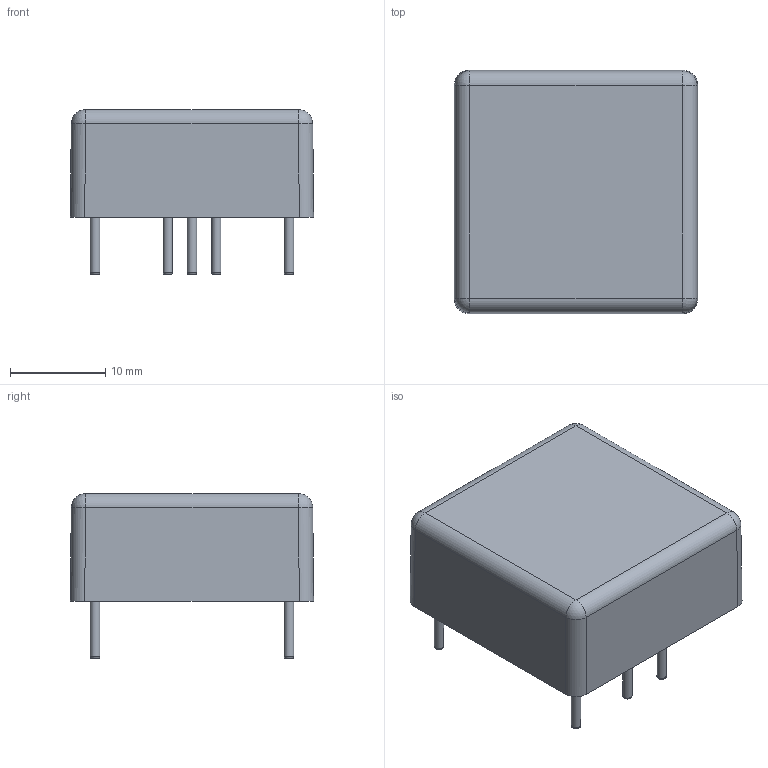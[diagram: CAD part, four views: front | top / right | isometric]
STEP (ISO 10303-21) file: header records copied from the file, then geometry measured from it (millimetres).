
FILE_DESCRIPTION(/* description */ (''),/* implementation_level */ '2;1');
FILE_NAME(/* name */ 'D:\Inventor\3D Files\200508\SW20F.stp',/* time_stamp */ '2020-04-23T11:43:19+08:00',/* author */ ('peter'),/* organization */ (''),/* preprocessor_version */ 'ST-DEVELOPER v15.2',/* originating_system */ 'Autodesk Inventor 2014',/* authorisation */ '');
FILE_SCHEMA (('AUTOMOTIVE_DESIGN { 1 0 10303 214 3 1 1 }'));
Length unit declared in the file: millimetre
Products named in the file (1): SW20F
Bounding box: 25.5 x 25.5 x 17.3 mm (x, y, z)
Volume: 7251.6 mm3; surface area: 2453.9 mm2
Topology: 1 solids, 1 shells, 36 faces, 66 edges, 38 vertices
Faces by surface type: cylinder 14, plane 12, torus 6, sphere 4
Full cylindrical faces by diameter (mm): 1 x6
Entity records: 866 total; most frequent: DIRECTION 162, CARTESIAN_POINT 129, ORIENTED_EDGE 108, AXIS2_PLACEMENT_3D 71, EDGE_LOOP 54, EDGE_CURVE 54, VERTEX_POINT 38, ADVANCED_FACE 36
